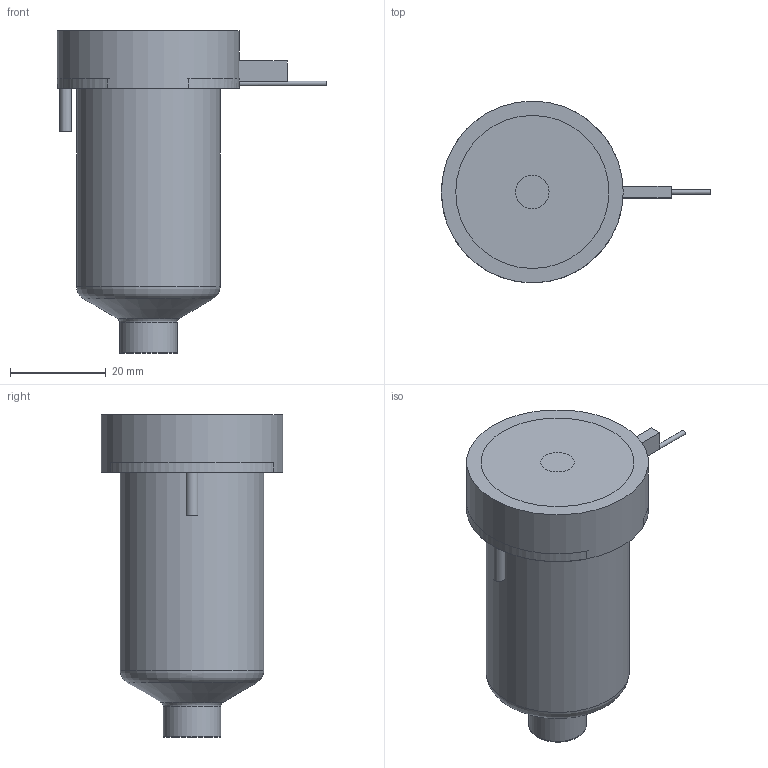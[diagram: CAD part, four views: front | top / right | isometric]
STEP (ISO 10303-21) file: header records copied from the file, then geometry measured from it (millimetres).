
FILE_DESCRIPTION(/* description */ (''),/* implementation_level */ '2;1');
FILE_NAME(/* name */ 'BXTBE16055_200C_a',/* time_stamp */ '2016-03-02T14:48:08+13:00',/* author */ (''),/* organization */ (''),/* preprocessor_version */ 'ST-DEVELOPER v9',/* originating_system */ 'UGS - NX 4.0',/* authorisation */ '');
FILE_SCHEMA (('CONFIG_CONTROL_DESIGN'));
Length unit declared in the file: millimetre
Products named in the file (1): matt3462e04i
Bounding box: 56.25 x 38 x 67.35 mm (x, y, z)
Volume: 82411.6 mm3; surface area: 16240.2 mm2
Topology: 2 solids, 2 shells, 65 faces, 146 edges, 95 vertices
Faces by surface type: plane 30, cylinder 21, torus 7, cone 6, bspline 1
Full cylindrical faces by diameter (mm): 1 x3, 2.5 x1, 7 x1, 11.61 x1, 12.01 x2, 14.8 x1, 25.4 x1, 30 x1, 38 x1
Entity records: 1911 total; most frequent: CARTESIAN_POINT 481, DIRECTION 294, ORIENTED_EDGE 230, AXIS2_PLACEMENT_3D 126, EDGE_CURVE 115, EDGE_LOOP 100, VERTEX_POINT 87, ADVANCED_FACE 65
